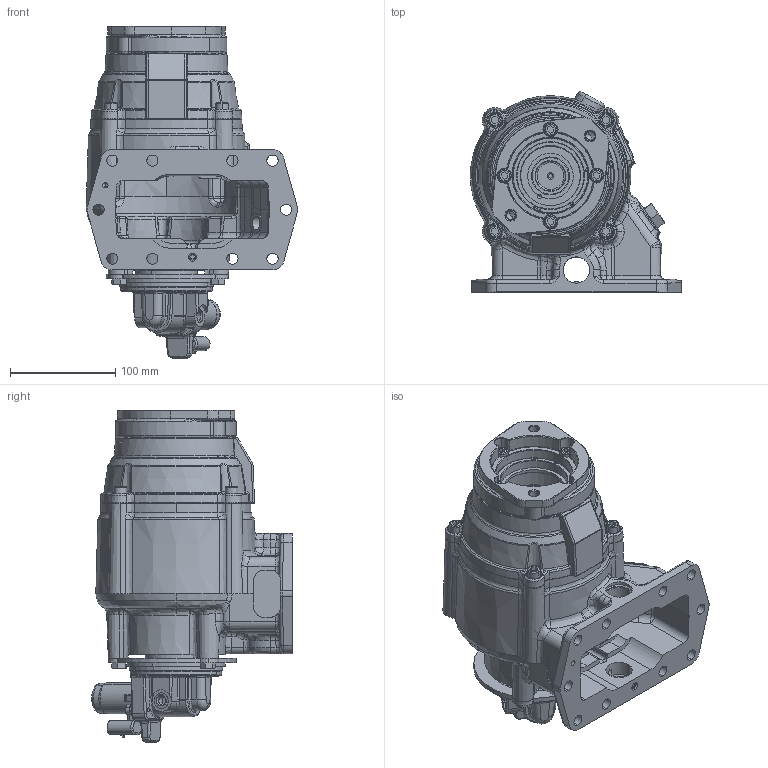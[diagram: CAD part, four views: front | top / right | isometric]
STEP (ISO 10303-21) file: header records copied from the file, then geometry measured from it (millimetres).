
FILE_DESCRIPTION (( 'STEP AP203' ), '1' );
FILE_NAME ('A20-A10XX-HX3AAPX.STEP', '2023-03-27T20:02:34', ( '' ), ( '' ), 'SwSTEP 2.0', 'SolidWorks 2021', '' );
FILE_SCHEMA (( 'CONFIG_CONTROL_DESIGN' ));
Length unit declared in the file: inch
Products named in the file (14): 19T36588_19T36588; 15T43431_FOR CLAMPS; 12T36701; A20-A10XX-HX3AAPX; 35T40860; DropInSolenoidRearCoverAssembly; 47T6123TMP_Solenoid; 25T35999TMP; 47T6123_15T43431_DUST CAP INSTALLED; SC-301_25T37702; 01T43433_3Arrangement; 15T65391DB3; 14T65653; 19T62950
Assembly tree (21 placements, depth 4):
  A20-A10XX-HX3AAPX
    01T43433_3Arrangement
    15T65391DB3
    25T35999TMP
    19T36588_19T36588  x8
    DropInSolenoidRearCoverAssembly
      47T6123TMP_Solenoid
      47T6123_15T43431_DUST CAP INSTALLED
        15T43431_FOR CLAMPS
        19T62950  x2
        12T36701
        SC-301_25T37702
    14T65653
    35T40860
Bounding box: 200.59 x 190.21 x 314.97 mm (x, y, z)
Volume: 732275.1 mm3; surface area: 444048.8 mm2
Topology: 26 solids, 38 shells, 3317 faces, 8133 edges, 4943 vertices
Faces by surface type: plane 981, bspline 854, cylinder 764, cone 386, torus 296, sphere 36
Entity records: 156091 total; most frequent: CARTESIAN_POINT 85891, ORIENTED_EDGE 15272, DIRECTION 12970, EDGE_CURVE 7645, AXIS2_PLACEMENT_3D 5147, VERTEX_POINT 4711, EDGE_LOOP 3419, FACE_OUTER_BOUND 3150
